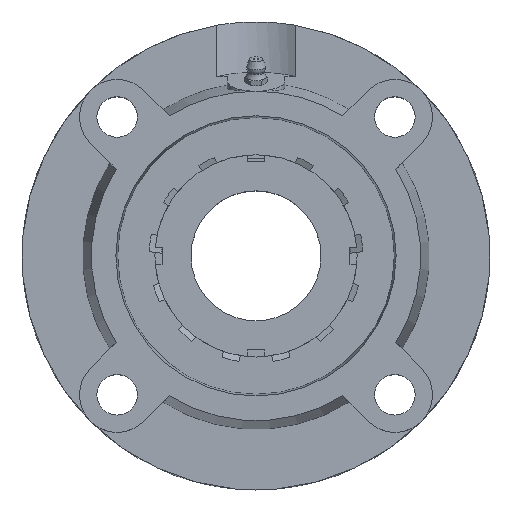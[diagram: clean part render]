
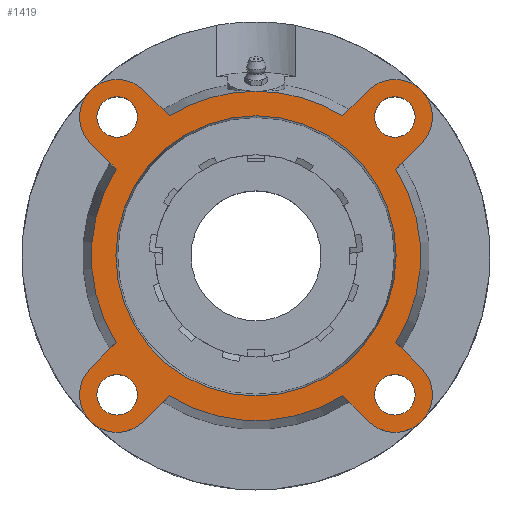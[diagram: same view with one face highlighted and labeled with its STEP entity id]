
A CAD part, top view. The second image highlights one B-rep face of the part: STEP entity #1419.
In plain terms, the highlighted planar face has unit normal (0, 0, 1).
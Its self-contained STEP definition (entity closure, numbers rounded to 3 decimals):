
#181=CARTESIAN_POINT('',(41.083,-48.083,18.));
#182=VERTEX_POINT('',#181);
#183=CARTESIAN_POINT('',(48.083,-48.083,18.));
#184=DIRECTION('',(0.0,0.0,-1.0));
#185=DIRECTION('',(1.0,0.0,0.0));
#186=AXIS2_PLACEMENT_3D('',#183,#184,#185);
#187=CIRCLE('',#186,7.);
#188=EDGE_CURVE('',#182,#182,#187,.T.);
#209=CARTESIAN_POINT('',(-55.083,48.083,18.));
#210=VERTEX_POINT('',#209);
#211=CARTESIAN_POINT('',(-48.083,48.083,18.));
#212=DIRECTION('',(0.0,0.0,-1.0));
#213=DIRECTION('',(1.0,0.0,0.0));
#214=AXIS2_PLACEMENT_3D('',#211,#212,#213);
#215=CIRCLE('',#214,7.);
#216=EDGE_CURVE('',#210,#210,#215,.T.);
#237=CARTESIAN_POINT('',(-55.083,-48.083,18.));
#238=VERTEX_POINT('',#237);
#239=CARTESIAN_POINT('',(-48.083,-48.083,18.));
#240=DIRECTION('',(0.0,0.0,-1.0));
#241=DIRECTION('',(1.0,0.0,0.0));
#242=AXIS2_PLACEMENT_3D('',#239,#240,#241);
#243=CIRCLE('',#242,7.);
#244=EDGE_CURVE('',#238,#238,#243,.T.);
#265=CARTESIAN_POINT('',(41.083,48.083,18.));
#266=VERTEX_POINT('',#265);
#267=CARTESIAN_POINT('',(48.083,48.083,18.));
#268=DIRECTION('',(0.0,0.0,-1.0));
#269=DIRECTION('',(1.0,0.0,0.0));
#270=AXIS2_PLACEMENT_3D('',#267,#268,#269);
#271=CIRCLE('',#270,7.);
#272=EDGE_CURVE('',#266,#266,#271,.T.);
#428=CARTESIAN_POINT('',(0.0,48.5,18.));
#429=VERTEX_POINT('',#428);
#430=CARTESIAN_POINT('',(0.0,0.,18.));
#431=DIRECTION('',(0.0,0.0,-1.0));
#432=DIRECTION('',(0.0,1.0,0.0));
#433=AXIS2_PLACEMENT_3D('',#430,#431,#432);
#434=CIRCLE('',#433,48.5);
#435=EDGE_CURVE('',#429,#429,#434,.T.);
#698=CARTESIAN_POINT('',(0.,57.,18.));
#699=VERTEX_POINT('',#698);
#821=CARTESIAN_POINT('',(-30.05,48.435,18.));
#822=VERTEX_POINT('',#821);
#836=CARTESIAN_POINT('',(0.0,0.,18.));
#837=DIRECTION('',(0.0,0.0,-1.0));
#838=DIRECTION('',(0.0,1.0,0.0));
#839=AXIS2_PLACEMENT_3D('',#836,#837,#838);
#840=CIRCLE('',#839,57.);
#841=EDGE_CURVE('',#822,#699,#840,.T.);
#854=CARTESIAN_POINT('',(30.05,48.435,18.));
#855=VERTEX_POINT('',#854);
#856=CARTESIAN_POINT('',(0.0,0.,18.));
#857=DIRECTION('',(0.0,0.0,-1.0));
#858=DIRECTION('',(0.0,1.0,0.0));
#859=AXIS2_PLACEMENT_3D('',#856,#857,#858);
#860=CIRCLE('',#859,57.);
#861=EDGE_CURVE('',#699,#855,#860,.T.);
#885=CARTESIAN_POINT('',(-48.435,30.05,18.));
#886=VERTEX_POINT('',#885);
#902=CARTESIAN_POINT('',(-57.276,38.891,18.));
#903=VERTEX_POINT('',#902);
#904=CARTESIAN_POINT('',(-48.435,30.05,18.));
#905=DIRECTION('',(-0.707,0.707,0.0));
#906=VECTOR('',#905,12.502);
#907=LINE('',#904,#906);
#908=EDGE_CURVE('',#886,#903,#907,.T.);
#932=CARTESIAN_POINT('',(-30.05,-48.435,18.));
#933=VERTEX_POINT('',#932);
#949=CARTESIAN_POINT('',(-38.891,-57.276,18.));
#950=VERTEX_POINT('',#949);
#951=CARTESIAN_POINT('',(-30.05,-48.435,18.));
#952=DIRECTION('',(-0.707,-0.707,0.0));
#953=VECTOR('',#952,12.502);
#954=LINE('',#951,#953);
#955=EDGE_CURVE('',#933,#950,#954,.T.);
#979=CARTESIAN_POINT('',(48.435,-30.05,18.));
#980=VERTEX_POINT('',#979);
#996=CARTESIAN_POINT('',(57.276,-38.891,18.));
#997=VERTEX_POINT('',#996);
#998=CARTESIAN_POINT('',(48.435,-30.05,18.));
#999=DIRECTION('',(0.707,-0.707,0.0));
#1000=VECTOR('',#999,12.502);
#1001=LINE('',#998,#1000);
#1002=EDGE_CURVE('',#980,#997,#1001,.T.);
#1027=CARTESIAN_POINT('',(38.891,57.276,18.));
#1028=VERTEX_POINT('',#1027);
#1029=CARTESIAN_POINT('',(30.05,48.435,18.));
#1030=DIRECTION('',(0.707,0.707,0.0));
#1031=VECTOR('',#1030,12.502);
#1032=LINE('',#1029,#1031);
#1033=EDGE_CURVE('',#855,#1028,#1032,.T.);
#1052=CARTESIAN_POINT('',(30.05,-48.435,18.));
#1053=VERTEX_POINT('',#1052);
#1075=CARTESIAN_POINT('',(38.891,-57.276,18.));
#1076=VERTEX_POINT('',#1075);
#1083=CARTESIAN_POINT('',(38.891,-57.276,18.));
#1084=DIRECTION('',(-0.707,0.707,0.0));
#1085=VECTOR('',#1084,12.502);
#1086=LINE('',#1083,#1085);
#1087=EDGE_CURVE('',#1076,#1053,#1086,.T.);
#1097=CARTESIAN_POINT('',(-57.276,-38.891,18.));
#1098=VERTEX_POINT('',#1097);
#1099=CARTESIAN_POINT('',(-48.083,-48.083,18.));
#1100=DIRECTION('',(0.0,0.0,-1.0));
#1101=DIRECTION('',(-0.636,0.771,0.0));
#1102=AXIS2_PLACEMENT_3D('',#1099,#1100,#1101);
#1103=CIRCLE('',#1102,13.);
#1104=EDGE_CURVE('',#950,#1098,#1103,.T.);
#1139=CARTESIAN_POINT('',(-48.435,-30.05,18.));
#1140=VERTEX_POINT('',#1139);
#1161=CARTESIAN_POINT('',(-57.276,-38.891,18.));
#1162=DIRECTION('',(0.707,0.707,0.0));
#1163=VECTOR('',#1162,12.502);
#1164=LINE('',#1161,#1163);
#1165=EDGE_CURVE('',#1098,#1140,#1164,.T.);
#1175=CARTESIAN_POINT('',(-38.891,57.276,18.));
#1176=VERTEX_POINT('',#1175);
#1177=CARTESIAN_POINT('',(-48.083,48.083,18.));
#1178=DIRECTION('',(0.0,0.0,-1.0));
#1179=DIRECTION('',(0.771,0.636,0.0));
#1180=AXIS2_PLACEMENT_3D('',#1177,#1178,#1179);
#1181=CIRCLE('',#1180,13.);
#1182=EDGE_CURVE('',#903,#1176,#1181,.T.);
#1210=CARTESIAN_POINT('',(-38.891,57.276,18.));
#1211=DIRECTION('',(0.707,-0.707,0.0));
#1212=VECTOR('',#1211,12.502);
#1213=LINE('',#1210,#1212);
#1214=EDGE_CURVE('',#1176,#822,#1213,.T.);
#1224=CARTESIAN_POINT('',(57.276,38.891,18.));
#1225=VERTEX_POINT('',#1224);
#1226=CARTESIAN_POINT('',(48.083,48.083,18.));
#1227=DIRECTION('',(0.0,0.0,-1.0));
#1228=DIRECTION('',(0.636,-0.771,0.0));
#1229=AXIS2_PLACEMENT_3D('',#1226,#1227,#1228);
#1230=CIRCLE('',#1229,13.);
#1231=EDGE_CURVE('',#1028,#1225,#1230,.T.);
#1260=CARTESIAN_POINT('',(48.435,30.05,18.));
#1261=VERTEX_POINT('',#1260);
#1282=CARTESIAN_POINT('',(57.276,38.891,18.));
#1283=DIRECTION('',(-0.707,-0.707,0.0));
#1284=VECTOR('',#1283,12.502);
#1285=LINE('',#1282,#1284);
#1286=EDGE_CURVE('',#1225,#1261,#1285,.T.);
#1296=CARTESIAN_POINT('',(48.083,-48.083,18.));
#1297=DIRECTION('',(0.0,0.0,-1.0));
#1298=DIRECTION('',(-0.771,-0.636,0.0));
#1299=AXIS2_PLACEMENT_3D('',#1296,#1297,#1298);
#1300=CIRCLE('',#1299,13.);
#1301=EDGE_CURVE('',#997,#1076,#1300,.T.);
#1362=CARTESIAN_POINT('',(0.0,28.5,18.));
#1363=DIRECTION('',(0.0,0.0,1.0));
#1364=DIRECTION('',(1.0,0.0,0.0));
#1365=AXIS2_PLACEMENT_3D('',#1362,#1363,#1364);
#1366=PLANE('',#1365);
#1367=CARTESIAN_POINT('',(0.0,0.,18.));
#1368=DIRECTION('',(0.0,0.0,-1.0));
#1369=DIRECTION('',(0.0,1.0,0.0));
#1370=AXIS2_PLACEMENT_3D('',#1367,#1368,#1369);
#1371=CIRCLE('',#1370,57.);
#1372=EDGE_CURVE('',#1053,#933,#1371,.T.);
#1373=ORIENTED_EDGE('',*,*,#1372,.F.);
#1374=ORIENTED_EDGE('',*,*,#1087,.F.);
#1375=ORIENTED_EDGE('',*,*,#1301,.F.);
#1376=ORIENTED_EDGE('',*,*,#1002,.F.);
#1377=CARTESIAN_POINT('',(0.0,0.,18.));
#1378=DIRECTION('',(0.0,0.0,-1.0));
#1379=DIRECTION('',(0.0,1.0,0.0));
#1380=AXIS2_PLACEMENT_3D('',#1377,#1378,#1379);
#1381=CIRCLE('',#1380,57.);
#1382=EDGE_CURVE('',#1261,#980,#1381,.T.);
#1383=ORIENTED_EDGE('',*,*,#1382,.F.);
#1384=ORIENTED_EDGE('',*,*,#1286,.F.);
#1385=ORIENTED_EDGE('',*,*,#1231,.F.);
#1386=ORIENTED_EDGE('',*,*,#1033,.F.);
#1387=ORIENTED_EDGE('',*,*,#861,.F.);
#1388=ORIENTED_EDGE('',*,*,#841,.F.);
#1389=ORIENTED_EDGE('',*,*,#1214,.F.);
#1390=ORIENTED_EDGE('',*,*,#1182,.F.);
#1391=ORIENTED_EDGE('',*,*,#908,.F.);
#1392=CARTESIAN_POINT('',(0.0,0.,18.));
#1393=DIRECTION('',(0.0,0.0,-1.0));
#1394=DIRECTION('',(0.0,1.0,0.0));
#1395=AXIS2_PLACEMENT_3D('',#1392,#1393,#1394);
#1396=CIRCLE('',#1395,57.);
#1397=EDGE_CURVE('',#1140,#886,#1396,.T.);
#1398=ORIENTED_EDGE('',*,*,#1397,.F.);
#1399=ORIENTED_EDGE('',*,*,#1165,.F.);
#1400=ORIENTED_EDGE('',*,*,#1104,.F.);
#1401=ORIENTED_EDGE('',*,*,#955,.F.);
#1402=EDGE_LOOP('',(#1373,#1374,#1375,#1376,#1383,#1384,#1385,#1386,#1387,#1388,#1389,#1390,#1391,#1398,#1399,#1400,#1401));
#1403=FACE_OUTER_BOUND('',#1402,.T.);
#1404=ORIENTED_EDGE('',*,*,#188,.T.);
#1405=EDGE_LOOP('',(#1404));
#1406=FACE_BOUND('',#1405,.T.);
#1407=ORIENTED_EDGE('',*,*,#216,.T.);
#1408=EDGE_LOOP('',(#1407));
#1409=FACE_BOUND('',#1408,.T.);
#1410=ORIENTED_EDGE('',*,*,#244,.T.);
#1411=EDGE_LOOP('',(#1410));
#1412=FACE_BOUND('',#1411,.T.);
#1413=ORIENTED_EDGE('',*,*,#272,.T.);
#1414=EDGE_LOOP('',(#1413));
#1415=FACE_BOUND('',#1414,.T.);
#1416=ORIENTED_EDGE('',*,*,#435,.T.);
#1417=EDGE_LOOP('',(#1416));
#1418=FACE_BOUND('',#1417,.T.);
#1419=ADVANCED_FACE('',(#1403,#1406,#1409,#1412,#1415,#1418),#1366,.T.);
